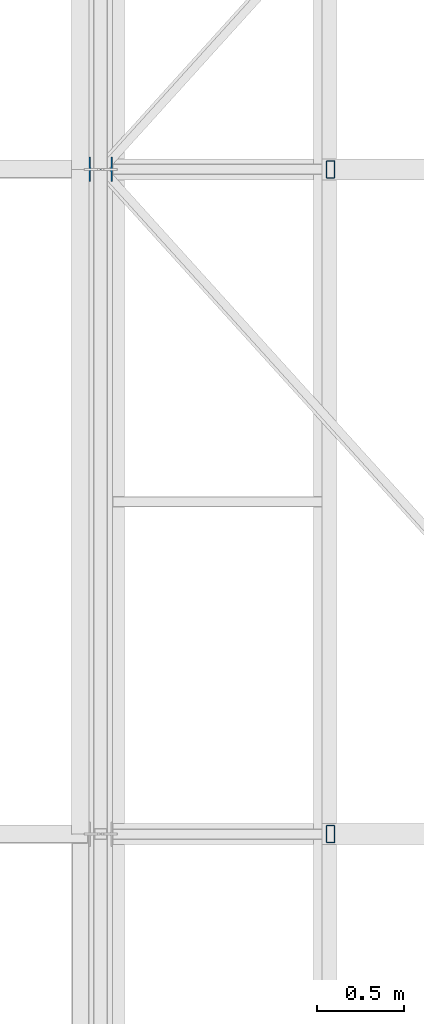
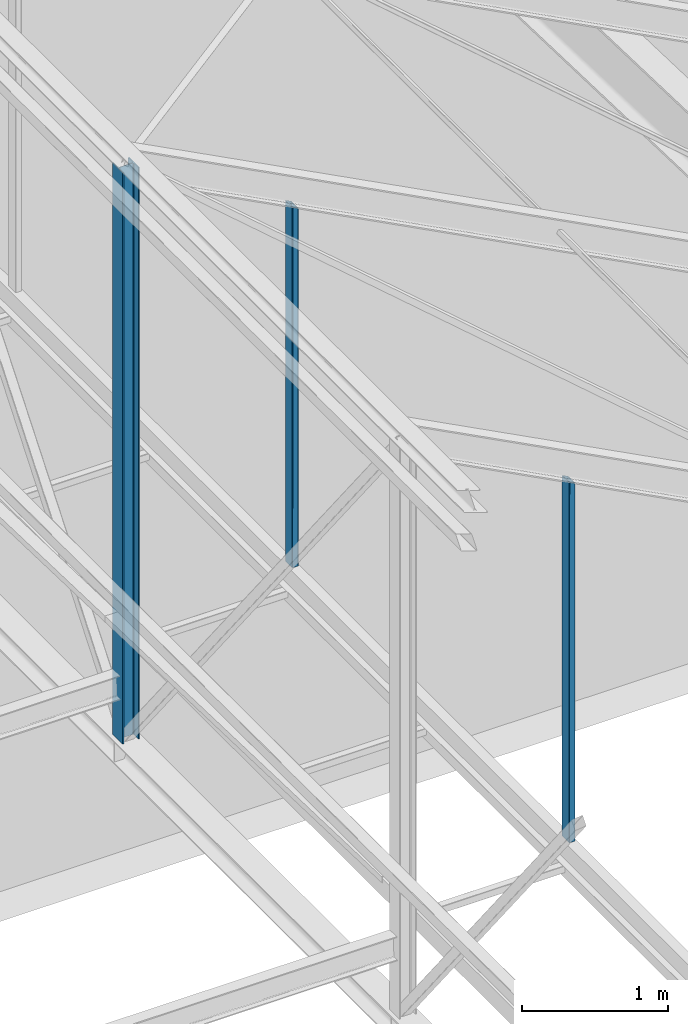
# One storey, part 3 of 123: 3 columns, 3 elements without a shape of their own.
"""IFC2X3 building model written with IfcOpenShell, lengths in millimetres."""

from ifc_helpers import new_model, si_unit, frame, origin_with_axes, origin_2d_with_axis, place, context, subcontext, project, spatial, hollow_rectangle, i_section, extrude, clip, halfspace, material, type_object, element, aggregate, save


model = new_model("IFC2X3")

# Units and contexts
model_context = context("Model", 3, precision=1e-05, world=origin_with_axes())
body_context = subcontext(model_context, "Body", "Model", "MODEL_VIEW")
ifc_project = project(units=[si_unit("LENGTHUNIT", "METRE", prefix="MILLI"), si_unit("AREAUNIT", "SQUARE_METRE"), si_unit("VOLUMEUNIT", "CUBIC_METRE"), si_unit("MASSUNIT", "GRAM", prefix="KILO"), si_unit("TIMEUNIT", "SECOND"), si_unit("PLANEANGLEUNIT", "RADIAN"), si_unit("SOLIDANGLEUNIT", "STERADIAN"), si_unit("THERMODYNAMICTEMPERATUREUNIT", "DEGREE_CELSIUS"), si_unit("LUMINOUSINTENSITYUNIT", "LUMEN")], contexts=[model_context])

# Site, building, storey
site_placement = place(None, origin_with_axes())
site = spatial("IfcSite", under=ifc_project, at=site_placement, Name="Undefined", CompositionType="ELEMENT")
building_placement = place(site_placement, origin_with_axes())
building = spatial("IfcBuilding", under=site, at=building_placement, Name="Undefined", CompositionType="ELEMENT")
storey_placement = place(building_placement, origin_with_axes())
storey = spatial("IfcBuildingStorey", under=building, at=storey_placement, Name="Undefined", CompositionType="ELEMENT", Elevation=0.0)

# Assembly, column
assembly_1_placement = place(storey_placement, origin_with_axes())
assembly_1 = element("IfcElementAssembly", 1, at=assembly_1_placement, inside=storey, Name="Steel Assembly", AssemblyPlace="NOTDEFINED", PredefinedType="RIGID_FRAME")
ifc_material_1 = material(Name="STEEL/S235-E24")
column_type_1 = type_object("IfcColumnType", Name="TUBE-R-100*50*3", PredefinedType="NOTDEFINED")
column_1_placement = place(assembly_1_placement, frame((13993.9998855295, 3800.0, 8240.0), z_axis=(0.0, 0.0, 1.0), x_axis=(0.0, -1.0, 0.0)))
column_1 = element("IfcColumn", 2, at=column_1_placement, type_object=column_type_1, material=ifc_material_1, Name="SUSPENTE", ObjectType="TUBE-R-100*50*3", context=body_context, shape_type="Clipping", body=[
    clip(extrude(hollow_rectangle(XDim=50.0, YDim=100.0, WallThickness=3.0, InnerFilletRadius=3.0, OuterFilletRadius=6.0, at=origin_2d_with_axis()), frame((0.0, 0.0, 3021.59058574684), z_axis=(0.0, 0.0, -1.0), x_axis=(0.0, 1.0, 0.0)), (0.0, 0.0, 1.0), 3021.6), halfspace(frame((0.0, -58.9640416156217, 3039.22712195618), z_axis=(0.0, -0.46352846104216, -0.886082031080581), x_axis=(1.0, 0.0, 0.0)), True)),
])
aggregate(assembly_1, [column_1])

assembly_2_placement = place(storey_placement, origin_with_axes())
assembly_2 = element("IfcElementAssembly", 3, at=assembly_2_placement, inside=storey, Name="Steel Assembly", AssemblyPlace="NOTDEFINED", PredefinedType="RIGID_FRAME")
column_2_placement = place(assembly_2_placement, frame((13993.9998855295, 7600.0, 8240.0), z_axis=(0.0, 0.0, 1.0), x_axis=(0.0, -1.0, 0.0)))
column_2 = element("IfcColumn", 4, at=column_2_placement, type_object=column_type_1, material=ifc_material_1, Name="SUSPENTE", ObjectType="TUBE-R-100*50*3", context=body_context, shape_type="Clipping", body=[
    clip(extrude(hollow_rectangle(XDim=50.0, YDim=100.0, WallThickness=3.0, InnerFilletRadius=3.0, OuterFilletRadius=6.0, at=origin_2d_with_axis()), frame((0.0, 0.0, 3021.59058574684), z_axis=(0.0, 0.0, -1.0), x_axis=(0.0, 1.0, 0.0)), (0.0, 0.0, 1.0), 3021.6), halfspace(frame((0.0, -58.9640416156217, 3039.22712195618), z_axis=(0.0, -0.46352846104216, -0.886082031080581), x_axis=(1.0, 0.0, 0.0)), True)),
])
aggregate(assembly_2, [column_2])

assembly_3_placement = place(storey_placement, origin_with_axes())
assembly_3 = element("IfcElementAssembly", 5, at=assembly_3_placement, inside=storey, Name="Steel Assembly", AssemblyPlace="NOTDEFINED", PredefinedType="RIGID_FRAME")
ifc_material_2 = material(Name="STEEL/S275-E28")
column_type_2 = type_object("IfcColumnType", Name="HEA140", PredefinedType="NOTDEFINED")
column_3_placement = place(assembly_3_placement, frame((12680.0, 7600.0, 7250.0), z_axis=(0.0, 0.0, 1.0), x_axis=(-1.0, 0.0, 0.0)))
column_3 = element("IfcColumn", 6, at=column_3_placement, type_object=column_type_2, material=ifc_material_2, Name="MONTANT", ObjectType="HEA140", context=body_context, shape_type="SweptSolid", body=[
    extrude(i_section(OverallWidth=140.0, OverallDepth=133.0, WebThickness=5.5, FlangeThickness=8.5, FilletRadius=12.0, at=origin_2d_with_axis()), frame((0.0, 0.0, 4787.0), z_axis=(0.0, 0.0, -1.0), x_axis=(0.0, 1.0, 0.0)), (0.0, 0.0, 1.0), 4787.0),
])
aggregate(assembly_3, [column_3])

save(model, "model.ifc")
